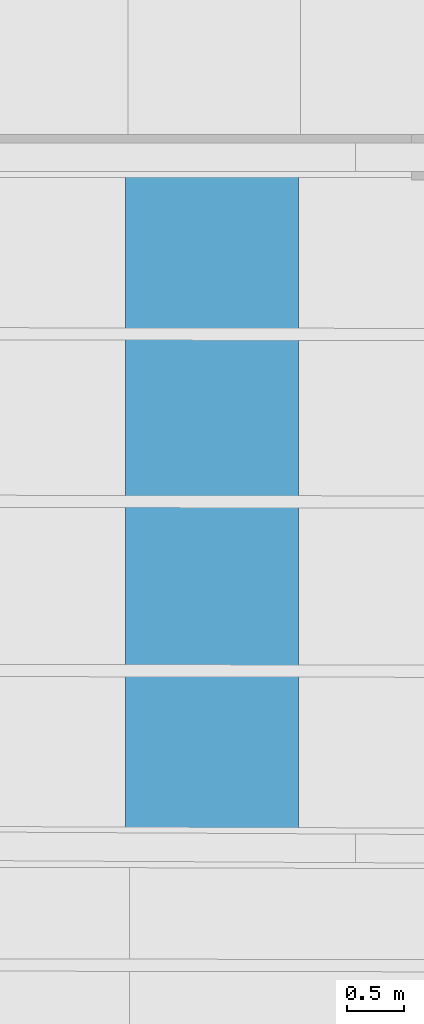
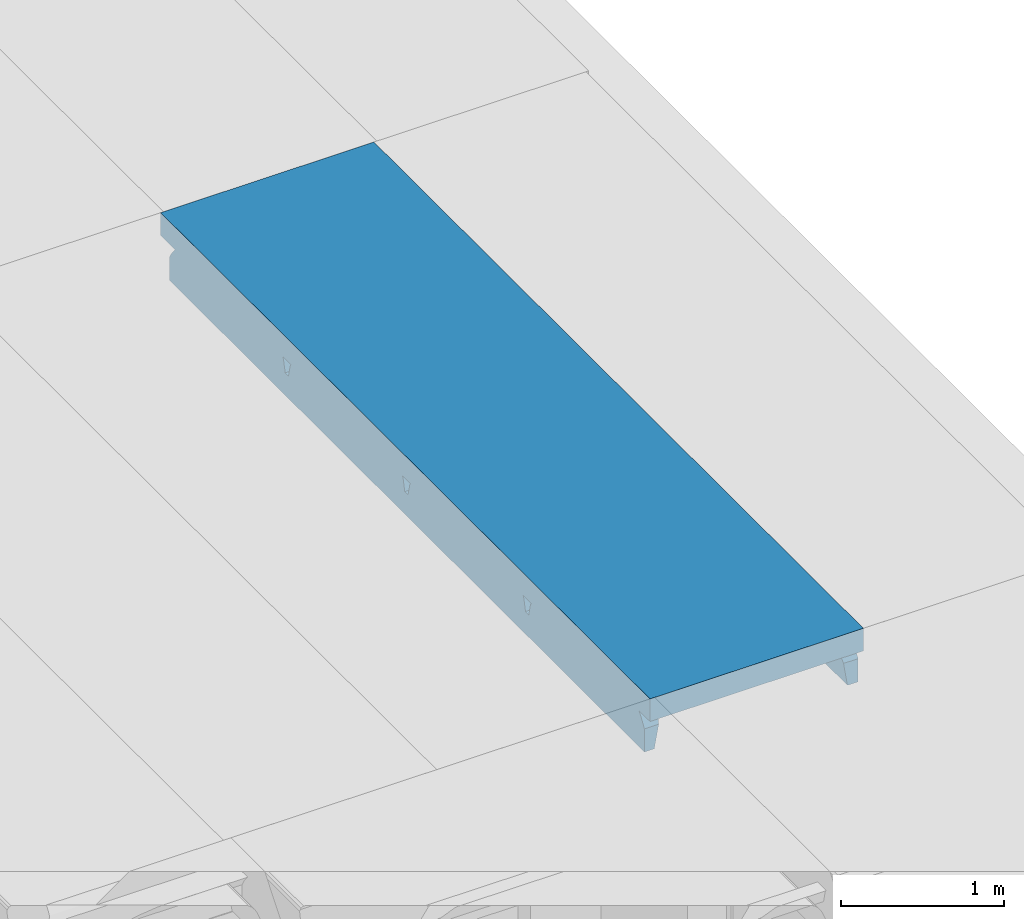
# One storey, part 42 of 301: 1 beam.
"""IFC2X3 building model written with IfcOpenShell, lengths in millimetres."""

import ifcopenshell
import ifcopenshell.guid

model = None  # the IFC model being written
_history = None  # IfcOwnerHistory: only IFC2X3 demands one
_inside = {}  # id of a spatial element -> (the spatial element, [elements in it])
_under = {}  # id of a project, library or spatial element -> (it, [spatial elements below it])
_declared = {}  # id of a project -> (the project, [libraries it declares])
_typed = {}  # id of a type object -> (the type object, [elements of that type])
_made_of = {}  # id of a material, layer set ... -> (it, [elements and type objects made of it])


def new_model(schema):
    """Start an empty IFC model of exactly this schema.

    Asked for "IFC4X3", IfcOpenShell would pick the latest addendum, in which some entities
    have other attributes; the version numbers below select the first issue.
    IFC2X3 requires an IfcOwnerHistory on every rooted entity: one is made here for all.
    """
    global model, _history
    if schema == "IFC4X3":
        model = ifcopenshell.file(schema_version=(4, 3, 0, 0))
    else:
        model = ifcopenshell.file(schema=schema)
    _inside.clear()
    _under.clear()
    _declared.clear()
    _typed.clear()
    _made_of.clear()
    _history = None
    if model.schema == "IFC2X3":
        org = make("IfcOrganization", Name="unknown")
        user = make(
            "IfcPersonAndOrganization",
            ThePerson=make("IfcPerson", FamilyName="unknown"),
            TheOrganization=org,
        )
        app = make(
            "IfcApplication",
            ApplicationDeveloper=org,
            Version="unknown",
            ApplicationFullName="unknown",
            ApplicationIdentifier="unknown",
        )
        _history = make(
            "IfcOwnerHistory",
            OwningUser=user,
            OwningApplication=app,
            ChangeAction="ADDED",
            CreationDate=0,
        )
    return model


def make(cls, **values):
    """One entity of the class cls with the attributes given. An attribute that is None is left unset."""
    return model.create_entity(
        cls, **{name: value for name, value in values.items() if value is not None}
    )


def entity(cls, *values):
    """Any entity or typed value of the class cls, its attributes in the order of the schema. None: left unset."""
    e = model.create_entity(cls)
    for i, value in enumerate(values):
        if value is not None:
            e[i] = value
    return e


def rooted(cls, **values):
    """An entity with a GlobalId (a new one), such as an element, a storey or a relation."""
    return make(cls, GlobalId=ifcopenshell.guid.new(), OwnerHistory=_history, **values)


def si_unit(unit_type, name, prefix=None):
    """IfcSIUnit, for example si_unit("LENGTHUNIT", "METRE", prefix="MILLI")."""
    return make("IfcSIUnit", UnitType=unit_type, Prefix=prefix, Name=name)


def converted_unit(unit_type, name, factor, base, dimensions=None, offset=None):
    """IfcConversionBasedUnit, such as the inch: factor (a typed value) times the base unit."""
    return make(
        "IfcConversionBasedUnit"
        if offset is None
        else "IfcConversionBasedUnitWithOffset",
        ConversionOffset=offset,
        Dimensions=None
        if dimensions is None
        else entity("IfcDimensionalExponents", *dimensions),
        UnitType=unit_type,
        Name=name,
        ConversionFactor=make(
            "IfcMeasureWithUnit", ValueComponent=factor, UnitComponent=base
        ),
    )


def derived_unit(unit_type, elements):
    """IfcDerivedUnit: a product of units, each with its exponent."""
    return make(
        "IfcDerivedUnit",
        Elements=[
            make("IfcDerivedUnitElement", Unit=unit, Exponent=power)
            for unit, power in elements
        ],
        UnitType=unit_type,
    )


def money_unit(currency):
    """IfcMonetaryUnit."""
    return make("IfcMonetaryUnit", Currency=currency)


def assignment(units):
    """IfcUnitAssignment: the units of a project."""
    return None if units is None else make("IfcUnitAssignment", Units=units)


def point(xyz):
    """IfcCartesianPoint."""
    return None if xyz is None else make("IfcCartesianPoint", Coordinates=xyz)


def direction(xyz):
    """IfcDirection."""
    return None if xyz is None else make("IfcDirection", DirectionRatios=xyz)


def frame(location, z_axis=None, x_axis=None):
    """IfcAxis2Placement3D, a coordinate frame: its origin and axes. An axis left out is left unset."""
    return make(
        "IfcAxis2Placement3D",
        Location=point(location),
        Axis=direction(z_axis),
        RefDirection=direction(x_axis),
    )


def origin_with_axes():
    """The frame at (0, 0, 0) with the z axis (0, 0, 1) and the x axis (1, 0, 0) written out."""
    return frame((0.0, 0.0, 0.0), z_axis=(0.0, 0.0, 1.0), x_axis=(1.0, 0.0, 0.0))


def place(relative_to, where):
    """IfcLocalPlacement: puts the frame where relative to a parent placement (None: the world)."""
    return make(
        "IfcLocalPlacement", PlacementRelTo=relative_to, RelativePlacement=where
    )


def context(
    kind, dimensions, precision=None, world=None, true_north=None, identifier=None
):
    """IfcGeometricRepresentationContext, for example the 3D "Model" context."""
    return make(
        "IfcGeometricRepresentationContext",
        ContextIdentifier=identifier,
        ContextType=kind,
        CoordinateSpaceDimension=dimensions,
        Precision=precision,
        WorldCoordinateSystem=world,
        TrueNorth=true_north,
    )


def subcontext(parent, identifier, kind, view, scale=None):
    """IfcGeometricRepresentationSubContext, for example "Body" below "Model"."""
    return make(
        "IfcGeometricRepresentationSubContext",
        ContextIdentifier=identifier,
        ContextType=kind,
        ParentContext=parent,
        TargetScale=scale,
        TargetView=view,
    )


def project(units=None, contexts=None):
    """IfcProject with its units and contexts."""
    return rooted(
        "IfcProject",
        Name="project",
        RepresentationContexts=contexts,
        UnitsInContext=assignment(units),
    )


def spatial(cls, under=None, at=None, **own):
    """A site, building, storey or space (cls), placed at a placement, below another one or the project."""
    s = rooted(cls, ObjectPlacement=at, **own)
    if under is not None:
        _under.setdefault(under.id(), (under, []))[1].append(s)
    return s


def faces_of(points, faces, orient=None, outer=None):
    """IfcFace entities. A face is a list of loops; a loop is a list of indices into points, from 0.

    orient and outer hold one flag for each loop. By default every Orientation is true, the
    first loop of a face is its IfcFaceOuterBound and the others are IfcFaceBound.
    """
    made = []
    for i, loops in enumerate(faces):
        bounds = []
        for j, loop in enumerate(loops):
            is_outer = j == 0 if outer is None else outer[i][j]
            bounds.append(
                make(
                    "IfcFaceOuterBound" if is_outer else "IfcFaceBound",
                    Bound=make("IfcPolyLoop", Polygon=[points[k] for k in loop]),
                    Orientation=True if orient is None else orient[i][j],
                )
            )
        made.append(make("IfcFace", Bounds=bounds))
    return made


def faceted_brep(points, faces, orient=None, outer=None, voids=None):
    """IfcFacetedBrep: a solid bounded by flat faces; with voids (closed shells), ...WithVoids."""
    shared = [point(p) for p in points]
    hull = make("IfcClosedShell", CfsFaces=faces_of(shared, faces, orient, outer))
    if voids is None:
        return make("IfcFacetedBrep", Outer=hull)
    return make(
        "IfcFacetedBrepWithVoids",
        Outer=hull,
        Voids=[
            make(cls, CfsFaces=faces_of(shared, fs, o, b)) for cls, fs, o, b in voids
        ],
    )


def shape(context_of_items, identifier, shape_type, items):
    """IfcShapeRepresentation: the items that make up one representation, for example the "Body"."""
    return make(
        "IfcShapeRepresentation",
        ContextOfItems=context_of_items,
        RepresentationIdentifier=identifier,
        RepresentationType=shape_type,
        Items=items,
    )


def material(Name=None, Category=None):
    """IfcMaterial."""
    return make("IfcMaterial", Name=Name, Category=Category)


def made_of(thing, what):
    """Note that an element or type object is made of a material, layer set ...; save() writes the relation."""
    if what is not None:
        _made_of.setdefault(what.id(), (what, []))[1].append(thing)
    return thing


def type_object(cls, material=None, **own):
    """A type object (cls), such as IfcWallType, which elements share."""
    return made_of(rooted(cls, **own), material)


def element(
    cls,
    number,
    at=None,
    inside=None,
    cuts=None,
    type_object=None,
    material=None,
    context=None,
    identifier="Body",
    shape_type=None,
    held_by="IfcProductDefinitionShape",
    body=None,
    shapes=None,
    **own,
):
    """One element of the class cls, such as IfcWall. Its Tag is "e" and its number.

    at: its placement. inside: the storey or other place that contains it. cuts: it is an
    opening in that element (IfcRelVoidsElement). A single representation is given by context,
    identifier, shape_type and body (its items); several are given by shapes. held_by: the class
    of the entity that holds the representations. save() writes the other relations.
    """
    e = rooted(cls, Tag="e%d" % number, ObjectPlacement=at, **own)
    if body is not None:
        shapes = [shape(context, identifier, shape_type, body)]
    if shapes is not None:
        e.Representation = make(held_by, Representations=shapes)
    if inside is not None:
        _inside.setdefault(inside.id(), (inside, []))[1].append(e)
    if cuts is not None:
        rooted(
            "IfcRelVoidsElement", RelatingBuildingElement=cuts, RelatedOpeningElement=e
        )
    if type_object is not None:
        _typed.setdefault(type_object.id(), (type_object, []))[1].append(e)
    return made_of(e, material)


def aggregate(whole, parts):
    """IfcRelAggregates: a whole, such as a stair, and the parts it consists of."""
    return rooted("IfcRelAggregates", RelatingObject=whole, RelatedObjects=parts)


def save(model, path):
    """Write the relations noted so far, then the file.

    IfcRelAggregates (storeys below a building ...), IfcRelContainedInSpatialStructure (elements
    in a storey), IfcRelDefinesByType, IfcRelAssociatesMaterial and IfcRelDeclares: one each for
    every whole, place, type object, material and project.
    """
    for whole, parts in _under.values():
        aggregate(whole, parts)
    for where, things in _inside.values():
        rooted(
            "IfcRelContainedInSpatialStructure",
            RelatedElements=things,
            RelatingStructure=where,
        )
    for kind, things in _typed.values():
        rooted("IfcRelDefinesByType", RelatedObjects=things, RelatingType=kind)
    for what, things in _made_of.values():
        rooted("IfcRelAssociatesMaterial", RelatedObjects=things, RelatingMaterial=what)
    for by, libraries in _declared.values():
        rooted("IfcRelDeclares", RelatingContext=by, RelatedDefinitions=libraries)
    model.write(path)


model = new_model("IFC2X3")

# Units and contexts
model_context = context("Model", 3, precision=0.01, world=origin_with_axes(), true_north=direction((0.0, 1.0)))
body_context = subcontext(model_context, "Body", "Model", "MODEL_VIEW")
ifc_project = project(units=[si_unit("LENGTHUNIT", "METRE", prefix="MILLI"), si_unit("AREAUNIT", "SQUARE_METRE"), si_unit("VOLUMEUNIT", "CUBIC_METRE"), converted_unit("PLANEANGLEUNIT", "DEGREE", entity("IfcPlaneAngleMeasure", 0.0174532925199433), si_unit("PLANEANGLEUNIT", "RADIAN"), dimensions=[0, 0, 0, 0, 0, 0, 0]), money_unit("EUR"), converted_unit("TIMEUNIT", "Year", entity("IfcTimeMeasure", 31557600.0), si_unit("TIMEUNIT", "SECOND"), dimensions=[0, 0, 1, 0, 0, 0, 0]), si_unit("MASSUNIT", "GRAM", prefix="KILO"), si_unit("THERMODYNAMICTEMPERATUREUNIT", "DEGREE_CELSIUS"), si_unit("LUMINOUSINTENSITYUNIT", "LUMEN"), si_unit("ENERGYUNIT", "JOULE", prefix="MEGA"), derived_unit("THERMALCONDUCTANCEUNIT", [(si_unit("POWERUNIT", "WATT"), 1), (si_unit("LENGTHUNIT", "METRE"), -1), (si_unit("THERMODYNAMICTEMPERATUREUNIT", "KELVIN"), -1)]), derived_unit("SPECIFICHEATCAPACITYUNIT", [(si_unit("ENERGYUNIT", "JOULE"), 1), (si_unit("MASSUNIT", "GRAM", prefix="KILO"), -1), (si_unit("THERMODYNAMICTEMPERATUREUNIT", "KELVIN"), -1)]), derived_unit("MASSDENSITYUNIT", [(si_unit("MASSUNIT", "GRAM", prefix="KILO"), 1), (si_unit("VOLUMEUNIT", "CUBIC_METRE"), -1)])], contexts=[model_context])

# Site, building, storey
site_placement = place(None, frame((0.0, 0.0, 8650.0), z_axis=(0.0, 0.0, 1.0), x_axis=(1.0, 0.0, 0.0)))
site = spatial("IfcSite", under=ifc_project, at=site_placement, Name="43301:001:0844", CompositionType="ELEMENT")
building_placement = place(site_placement, origin_with_axes())
building = spatial("IfcBuilding", under=site, at=building_placement, Name="Kuressaare Ametikooli tuulikute mehaanikute õppekorpus", CompositionType="ELEMENT")
storey_placement = place(building_placement, origin_with_axes())
storey = spatial("IfcBuildingStorey", under=building, at=storey_placement, Name="1.korrus", CompositionType="ELEMENT", Elevation=0.0)

# Beam
ifc_material = material(Name="GENEERILINE - KONSTRUKTRIOON")
beam_type = type_object("IfcBeamType", Name="Precast Double Tee 2 1510 x 440", PredefinedType="NOTDEFINED")
beam_placement = place(storey_placement, frame((100980.8777537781, 50085.3047311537, 7100.000000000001), z_axis=(0.0, 0.0, 1.0), x_axis=(-1.0, 0.0, 0.0)))
element("IfcBeam", 1, at=beam_placement, inside=storey, type_object=beam_type, material=ifc_material, context=body_context, shape_type="Brep", body=[
    faceted_brep([(594.2116174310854, 0.0, -169.8234995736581), (734.9999999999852, 0.0, -169.8234995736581), (734.9999999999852, 0.0, 0.0), (-754.9999999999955, 0.0, 0.0), (-754.9999999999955, 0.0, -169.8234995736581), (-588.1481649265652, 0.0, -169.8234995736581), (590.5789219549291, 0.0, -169.8234995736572), (593.6993855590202, 0.0, -169.7351493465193), (754.9999999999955, 0.03570111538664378, -169.8234995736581), (734.9999999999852, 0.03570111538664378, -169.8234995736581), (594.2116174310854, 176.9757615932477, -169.8234995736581), (754.9999999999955, 176.9308709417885, -169.8234995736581), (734.9999999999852, 0.03570111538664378, 0.0), (754.9999999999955, 0.03570111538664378, 0.0), (754.9999999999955, 6000.152445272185, 0.0), (-754.9999999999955, 6000.152445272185, 0.0), (-754.9999999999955, 177.3524491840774, -169.8234995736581), (-754.9999999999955, 6000.152445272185, -169.0000000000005), (-754.9999999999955, 5866.821764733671, -169.0000000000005), (-754.9999999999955, 5877.784375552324, -180.5328579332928), (-754.9999999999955, 5909.457034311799, -221.5483087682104), (-754.9999999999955, 5935.04917102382, -266.6089685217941), (-754.9999999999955, 5935.04969611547, -440.0001340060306), (-754.9999999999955, 109.1249096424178, -440.0001340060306), (-754.9999999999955, 109.125432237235, -267.4324680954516), (-754.9999999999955, 134.7174229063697, -222.3718083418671), (-754.9999999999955, 166.3899009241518, -181.3563575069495), (-754.9999999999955, 1496.714630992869, -169.8234995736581), (-754.9999999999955, 1504.913421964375, -175.3977593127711), (-754.9999999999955, 1509.488061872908, -184.1935020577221), (-754.9999999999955, 1530.22900921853, -271.7709778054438), (-754.9999999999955, 1570.229062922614, -271.7709778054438), (-754.9999999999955, 1590.969048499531, -184.1936973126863), (-754.9999999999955, 1595.543667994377, -175.39783429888), (-754.9999999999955, 1603.742525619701, -169.8234995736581), (-754.9999999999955, 2970.754122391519, -175.3977593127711), (-754.9999999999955, 2975.328762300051, -184.1935020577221), (-754.9999999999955, 2996.069709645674, -271.7709778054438), (-754.9999999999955, 3036.069763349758, -271.7709778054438), (-754.9999999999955, 3056.809748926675, -184.1936973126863), (-754.9999999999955, 3061.384368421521, -175.39783429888), (-754.9999999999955, 3069.583226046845, -169.8234995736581), (-754.9999999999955, 2962.555331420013, -169.8234995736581), (-754.9999999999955, 4455.421062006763, -184.1935020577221), (-754.9999999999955, 4476.162009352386, -271.7709778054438), (-754.9999999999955, 4516.16206305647, -271.7709778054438), (-754.9999999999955, 4536.902048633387, -184.1936973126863), (-754.9999999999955, 4541.476668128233, -175.39783429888), (-754.9999999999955, 4549.675525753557, -169.8234995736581), (-754.9999999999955, 4442.647631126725, -169.8234995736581), (-754.9999999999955, 4450.846422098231, -175.3977593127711), (-588.1481649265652, 177.3058656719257, -169.8234995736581), (-588.1481649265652, 1496.441217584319, -169.8234995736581), (-588.1481649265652, 1603.469112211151, -169.8234995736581), (-588.1481649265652, 2962.281918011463, -169.8234995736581), (-588.1481649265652, 3069.309812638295, -169.8234995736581), (-588.1481649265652, 4442.374217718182, -169.8234995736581), (-588.1481649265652, 4549.402112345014, -169.8234995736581), (-588.1481649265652, 5867.038941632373, -169.8234995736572), (590.5789219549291, 5863.043221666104, -169.8234995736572), (593.6993855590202, 5862.948662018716, -169.7351493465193), (610.5576441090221, 5865.655469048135, -172.6428773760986), (610.5576441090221, 4543.291036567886, -172.6428773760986), (594.2116174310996, 4547.464626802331, -169.8234995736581), (594.2116174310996, 4440.436732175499, -169.8234995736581), (610.5576441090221, 4444.556773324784, -172.6428773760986), (610.5576441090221, 3063.198736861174, -172.6428773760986), (594.2116174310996, 3067.372327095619, -169.8234995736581), (594.2116174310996, 2960.344432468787, -169.8234995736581), (610.5576441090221, 2964.464473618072, -172.6428773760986), (610.5576441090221, 1597.358036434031, -172.6428773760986), (594.2116174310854, 1601.531626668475, -169.8234995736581), (594.2116174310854, 1494.503732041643, -169.8234995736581), (610.5576441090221, 1498.623773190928, -172.6428773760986), (610.5576441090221, 174.2912407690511, -172.6428773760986), (754.9999999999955, 165.9683226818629, -181.3563575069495), (625.4118792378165, 166.2209986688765, -181.1285984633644), (625.6051041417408, 166.0044485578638, -181.3563575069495), (754.9999999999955, 134.2958446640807, -222.3718083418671), (754.9999999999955, 108.7038539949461, -267.4324680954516), (754.9999999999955, 108.7033314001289, -440.0001340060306), (754.9999999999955, 5929.931007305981, -440.0001340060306), (754.9999999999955, 5929.930482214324, -266.6089685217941), (754.9999999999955, 5904.33834550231, -221.5483087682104), (754.9999999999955, 5872.665686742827, -180.5328579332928), (754.9999999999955, 5861.703075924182, -169.0000000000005), (754.9999999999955, 6000.152445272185, -169.0000000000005), (754.9999999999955, 1494.240254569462, -169.8234995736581), (754.9999999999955, 1601.268149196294, -169.8234995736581), (754.9999999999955, 1593.06929157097, -175.39783429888), (754.9999999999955, 1588.494672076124, -184.1936973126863), (754.9999999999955, 1567.754686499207, -271.7709778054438), (754.9999999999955, 1527.754632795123, -271.7709778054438), (754.9999999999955, 1507.0136854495, -184.1935020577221), (754.9999999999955, 1502.439045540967, -175.3977593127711), (754.9999999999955, 3067.108849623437, -169.8234995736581), (754.9999999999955, 3058.909991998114, -175.39783429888), (754.9999999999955, 3054.335372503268, -184.1936973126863), (754.9999999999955, 3033.59538692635, -271.7709778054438), (754.9999999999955, 2993.595333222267, -271.7709778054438), (754.9999999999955, 2972.854385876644, -184.1935020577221), (754.9999999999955, 2968.279745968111, -175.3977593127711), (754.9999999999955, 2960.080954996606, -169.8234995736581), (754.9999999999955, 4539.002291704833, -175.39783429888), (754.9999999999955, 4534.427672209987, -184.1936973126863), (754.9999999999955, 4513.687686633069, -271.7709778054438), (754.9999999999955, 4473.687632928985, -271.7709778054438), (754.9999999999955, 4452.946685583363, -184.1935020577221), (754.9999999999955, 4448.372045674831, -175.3977593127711), (754.9999999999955, 4440.173254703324, -169.8234995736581), (754.9999999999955, 4547.201149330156, -169.8234995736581), (624.369036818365, 5873.108507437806, -180.5328579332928), (-608.1505435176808, 5870.507373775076, -173.40101840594), (-620.114016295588, 5877.32713093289, -180.5328579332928), (-625.6043121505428, 5879.873160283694, -183.8058130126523), (-638.2645371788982, 5892.189464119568, -199.6996008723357), (-644.5028387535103, 5907.14404559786, -219.0380957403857), (-644.9004198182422, 5909.083812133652, -221.5483087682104), (-652.0373699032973, 5934.700142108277, -266.6089685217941), (-679.4999969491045, 5934.793761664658, -440.0001340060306), (-679.4999969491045, 109.1038307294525, -440.0001340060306), (-652.1678002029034, 109.0967224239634, -267.4324680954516), (-645.0308501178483, 134.6867205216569, -222.3718083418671), (-621.4954151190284, 166.352627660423, -181.3563575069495), (-644.5028387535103, 137.2608941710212, -219.0380957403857), (-638.2645371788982, 152.1925017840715, -199.6996008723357), (-625.6043121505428, 164.4622845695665, -183.8058130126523), (-608.1505435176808, 173.9108426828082, -173.40101840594), (-611.5000237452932, 1504.678274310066, -175.3977593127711), (-608.1505435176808, 1501.735918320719, -173.40101840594), (-625.9131265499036, 1509.276532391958, -184.1935020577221), (-625.6043121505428, 1509.07439041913, -183.8058130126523), (-638.2645371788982, 1512.96907689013, -199.6996008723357), (-644.5028387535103, 1517.559229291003, -219.0380957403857), (-652.8549567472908, 1530.061628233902, -271.7709778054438), (-652.8549567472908, 1570.061681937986, -271.7709778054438), (-644.5028387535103, 1582.536157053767, -219.0380957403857), (-638.2645371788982, 1587.105662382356, -199.6996008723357), (-625.913282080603, 1590.757519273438, -184.1936973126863), (-611.5001495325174, 1595.30852054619, -175.39783429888), (-625.6043121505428, 1590.958746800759, -183.8058130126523), (-608.1505435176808, 1598.239993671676, -173.40101840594), (-611.5000237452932, 2970.51897473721, -175.3977593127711), (-625.6043121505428, 2974.915090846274, -183.8058130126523), (-625.9131265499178, 2975.117232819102, -184.1935020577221), (-638.2645371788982, 2978.809777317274, -199.6996008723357), (-644.5028387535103, 2983.399929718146, -219.0380957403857), (-652.8549567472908, 2995.902328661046, -271.7709778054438), (-652.8549567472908, 3035.902382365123, -271.7709778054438), (-644.5028387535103, 3048.376857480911, -219.0380957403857), (-638.2645371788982, 3052.9463628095, -199.6996008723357), (-625.913282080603, 3056.598219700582, -184.1936973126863), (-625.6043121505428, 3056.799447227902, -183.8058130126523), (-611.5001495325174, 3061.149220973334, -175.39783429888), (-608.1505435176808, 3064.08069409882, -173.40101840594), (-608.1505435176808, 2967.576618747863, -173.40101840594), (-625.9131265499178, 4455.209532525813, -184.1935020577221), (-638.2645371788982, 4458.902077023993, -199.6996008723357), (-644.5028387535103, 4463.492229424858, -219.0380957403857), (-652.8549567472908, 4475.994628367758, -271.7709778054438), (-652.8549567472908, 4515.994682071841, -271.7709778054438), (-644.5028387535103, 4528.469157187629, -219.0380957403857), (-638.2645371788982, 4533.038662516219, -199.6996008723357), (-625.913282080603, 4536.690519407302, -184.1936973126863), (-625.6043121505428, 4536.891746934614, -183.8058130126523), (-611.5001495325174, 4541.241520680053, -175.39783429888), (-608.1505435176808, 4544.172993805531, -173.40101840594), (-608.1505435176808, 4447.668918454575, -173.40101840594), (-611.5000237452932, 4450.611274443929, -175.3977593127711), (-625.6043121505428, 4455.007390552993, -183.8058130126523), (625.4118792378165, 5873.565010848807, -181.1285984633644), (625.4118792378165, 4536.234143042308, -181.1285984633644), (615.3801898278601, 4539.23108108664, -175.39783429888), (615.3800585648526, 4448.600835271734, -175.3977593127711), (625.4118792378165, 3056.141843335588, -181.1285984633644), (615.3801898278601, 3059.138781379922, -175.39783429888), (625.4118792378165, 4451.564989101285, -181.1285984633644), (615.3800585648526, 2968.508535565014, -175.3977593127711), (625.4118792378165, 2971.472689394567, -181.1285984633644), (625.4118792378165, 1590.301142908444, -181.1285984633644), (615.3801898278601, 1593.298080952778, -175.39783429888), (615.3800585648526, 1502.66783513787, -175.3977593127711), (625.4118792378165, 1505.631988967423, -181.1285984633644), (628.0120644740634, 1507.221775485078, -184.1935020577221), (636.4790028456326, 1509.571507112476, -194.1736948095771), (636.4790028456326, 156.103756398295, -194.1736948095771), (642.4305280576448, 143.7169902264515, -210.2122455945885), (644.6584596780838, 134.3266510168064, -222.3718083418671), (652.9146832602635, 108.7323552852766, -267.4324680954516), (684.5333333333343, 108.7230050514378, -440.0001340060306), (684.5333333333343, 5930.169879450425, -440.0001340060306), (652.7637978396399, 5930.277048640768, -266.6089685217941), (644.5075742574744, 5904.712899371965, -221.5483087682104), (642.4305280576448, 5895.966086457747, -210.2122455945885), (636.4790028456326, 5883.601086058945, -194.1736948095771), (628.0122301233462, 1588.70276184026, -184.1936973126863), (636.4790028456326, 1586.325432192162, -194.1736948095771), (642.4305280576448, 1582.517442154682, -210.2122455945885), (653.7096051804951, 1567.920667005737, -271.7709778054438), (653.7096051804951, 1527.920613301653, -271.7709778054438), (642.4305280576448, 1513.360159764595, -210.2122455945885), (628.0122301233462, 3054.543462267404, -184.1936973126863), (636.4790028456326, 3052.166132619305, -194.1736948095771), (642.4305280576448, 3048.358142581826, -210.2122455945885), (653.7096051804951, 3033.761367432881, -271.7709778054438), (653.7096051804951, 2993.761313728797, -271.7709778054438), (628.0120644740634, 2973.062475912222, -184.1935020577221), (642.4305280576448, 2979.200860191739, -210.2122455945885), (636.4790028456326, 2975.41220753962, -194.1736948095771), (628.0122301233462, 4534.635761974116, -184.1936973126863), (642.4305280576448, 4528.450442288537, -210.2122455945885), (653.7096051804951, 4513.8536671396, -271.7709778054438), (636.4790028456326, 4532.258432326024, -194.1736948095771), (653.7096051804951, 4473.853613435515, -271.7709778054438), (642.4305280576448, 4459.293159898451, -210.2122455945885), (636.4790028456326, 4455.504507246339, -194.1736948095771), (628.0120644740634, 4453.154775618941, -184.1935020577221)], [[[0, 1, 2, 3, 4, 5, 6, 7]], [[8, 9, 1, 0, 10, 11]], [[9, 12, 2, 1]], [[2, 12, 13, 14, 15, 3]], [[16, 4, 3, 15, 17, 18, 19, 20, 21, 22, 23, 24, 25, 26], [27, 28, 29, 30, 31, 32, 33, 34], [35, 36, 37, 38, 39, 40, 41, 42], [43, 44, 45, 46, 47, 48, 49, 50]], [[5, 4, 16, 51]], [[52, 53, 54, 55, 56, 57, 58, 59, 6, 5, 51]], [[60, 7, 6, 59]], [[0, 7, 60, 61, 62, 63, 64, 65, 66, 67, 68, 69, 70, 71, 72, 73, 74, 10]], [[8, 13, 12, 9]], [[75, 11, 10, 74, 76, 77]], [[14, 13, 8, 11, 75, 78, 79, 80, 81, 82, 83, 84, 85, 86], [87, 88, 89, 90, 91, 92, 93, 94], [95, 96, 97, 98, 99, 100, 101, 102], [103, 104, 105, 106, 107, 108, 109, 110]], [[17, 15, 14, 86]], [[18, 17, 86, 85]], [[111, 61, 60, 59, 58, 112, 113, 19, 18, 85, 84]], [[20, 19, 113, 114, 115, 116, 117]], [[20, 117, 118, 21]], [[21, 118, 119, 22]], [[119, 120, 23, 22]], [[24, 23, 120, 121]], [[25, 24, 121, 122]], [[123, 26, 25, 122, 124, 125, 126]], [[123, 127, 51, 16, 26]], [[128, 28, 27, 52, 129]], [[130, 29, 28, 128, 131]], [[30, 29, 130, 132, 133, 134]], [[134, 135, 31, 30]], [[32, 31, 135, 136, 137, 138]], [[139, 33, 32, 138, 140]], [[53, 34, 33, 139, 141]], [[53, 52, 27, 34]], [[36, 35, 142, 143, 144]], [[36, 144, 145, 146, 147, 37]], [[148, 38, 37, 147]], [[38, 148, 149, 150, 151, 39]], [[40, 39, 151, 152, 153]], [[41, 40, 153, 154, 55]], [[54, 42, 41, 55]], [[35, 42, 54, 155, 142]], [[156, 157, 158, 159, 44, 43]], [[45, 44, 159, 160]], [[160, 161, 162, 163, 46, 45]], [[46, 163, 164, 165, 47]], [[47, 165, 166, 57, 48]], [[49, 48, 57, 56]], [[49, 56, 167, 168, 50]], [[50, 168, 169, 156, 43]], [[141, 155, 54, 53]], [[167, 56, 55, 154]], [[57, 166, 112, 58]], [[51, 127, 129, 52]], [[61, 111, 170, 171, 172, 62]], [[62, 172, 103, 110, 63]], [[64, 63, 110, 109]], [[64, 109, 108, 173, 65]], [[174, 175, 66, 65, 173, 176]], [[67, 66, 175, 96, 95]], [[102, 68, 67, 95]], [[69, 68, 102, 101, 177]], [[178, 179, 180, 70, 69, 177]], [[88, 71, 70, 180, 89]], [[88, 87, 72, 71]], [[181, 73, 72, 87, 94]], [[73, 181, 182, 76, 74]], [[183, 184, 185, 77, 76, 182]], [[78, 75, 77, 185, 186, 187]], [[187, 188, 79, 78]], [[188, 189, 80, 79]], [[81, 80, 189, 190]], [[191, 82, 81, 190]], [[192, 83, 82, 191]], [[170, 111, 84, 83, 192, 193, 194]], [[89, 180, 179, 195, 90]], [[195, 196, 197, 198, 91, 90]], [[92, 91, 198, 199]], [[184, 183, 93, 92, 199, 200]], [[183, 182, 181, 94, 93]], [[175, 174, 201, 97, 96]], [[202, 203, 204, 98, 97, 201]], [[98, 204, 205, 99]], [[206, 100, 99, 205, 207, 208]], [[178, 177, 101, 100, 206]], [[171, 209, 104, 103, 172]], [[210, 211, 105, 104, 209, 212]], [[211, 213, 106, 105]], [[107, 106, 213, 214, 215, 216]], [[173, 108, 107, 216, 176]], [[114, 113, 112, 166, 165, 164]], [[162, 115, 114, 164, 163]], [[162, 161, 116, 115]], [[119, 118, 117, 116, 161, 160, 159, 158, 149, 148, 147, 146, 136, 135, 134, 133, 124, 122, 121, 120]], [[125, 124, 133, 132]], [[132, 130, 131, 126, 125]], [[128, 129, 127, 123, 126, 131]], [[136, 146, 145, 137]], [[143, 140, 138, 137, 145, 144]], [[155, 141, 139, 140, 143, 142]], [[158, 157, 150, 149]], [[152, 151, 150, 157, 156, 169]], [[154, 153, 152, 169, 168, 167]], [[171, 170, 194, 212, 209]], [[202, 201, 174, 176, 216, 215]], [[208, 196, 195, 179, 178, 206]], [[186, 185, 184, 200]], [[204, 203, 214, 213, 211, 210, 193, 192, 191, 190, 189, 188, 187, 186, 200, 199, 198, 197, 207, 205]], [[210, 212, 194, 193]], [[196, 208, 207, 197]], [[215, 214, 203, 202]]]),
])

save(model, "model.ifc")
